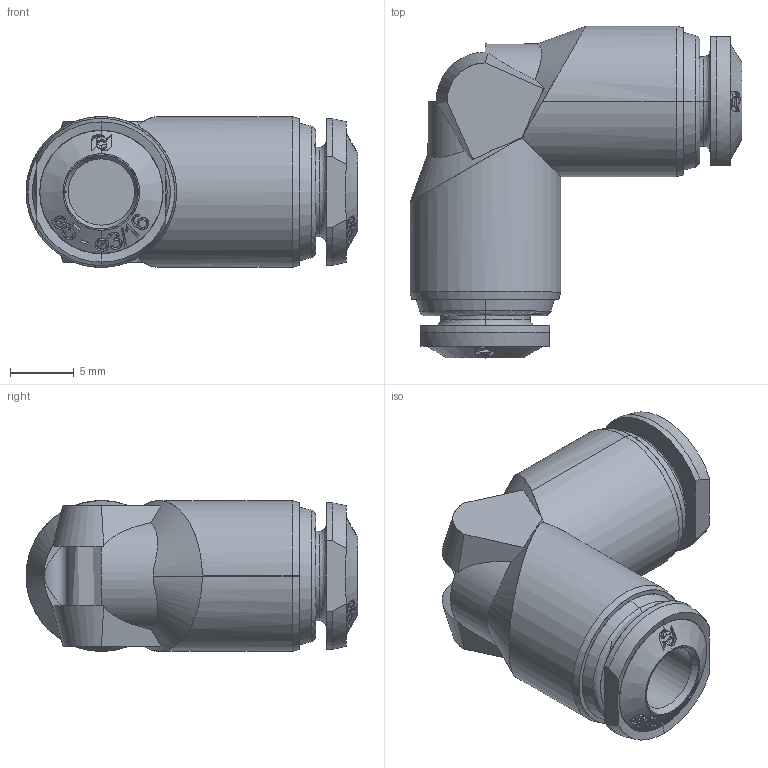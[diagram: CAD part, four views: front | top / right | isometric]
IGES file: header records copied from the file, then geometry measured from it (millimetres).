
Start section: SolidWorks IGES file using analytic representation for surfaces
Global section: file name: K:\Disegni Esecutivi\Serie 55000\ASSIEMI_55000\55130\ASSIEMI_PIENI_55130\5513000003A.IGS; native system: SolidWorks 2007; preprocessor: SolidWorks 2007; author: cad02; date: 071212.102438; units: millimetre
Bounding box: 26 x 26 x 11.8 mm (x, y, z)
Surface area: 2030 mm2 (no closed solid volume)
Topology: 0 solids, 0 shells, 403 faces, 4315 edges, 4310 vertices
Faces by surface type: bspline 308, revolution 95
